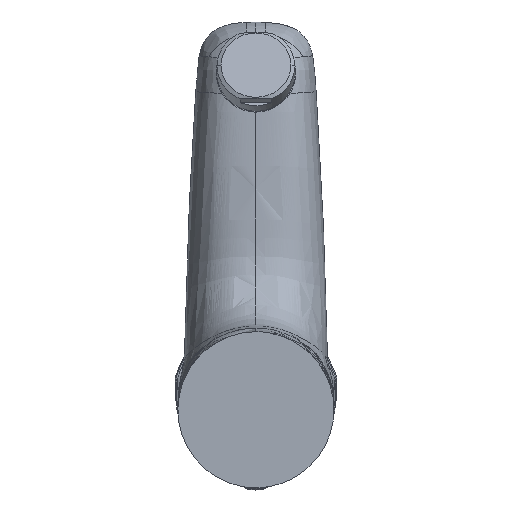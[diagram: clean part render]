
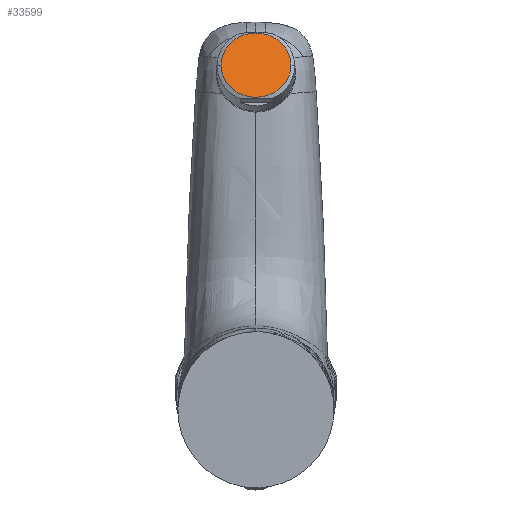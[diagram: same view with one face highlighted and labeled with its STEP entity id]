
A CAD part, front view. The second image highlights one B-rep face of the part: STEP entity #33599.
In plain terms, the highlighted planar face has unit normal (0, -0.92, 0.391).
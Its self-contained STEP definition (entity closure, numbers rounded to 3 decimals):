
#786 = DIRECTION ( 'NONE',  ( 1., 0., 0. ) ) ;
#2707 = PLANE ( 'NONE',  #28750 ) ;
#6608 = VERTEX_POINT ( 'NONE', #31474 ) ;
#6644 = VERTEX_POINT ( 'NONE', #15952 ) ;
#13832 = EDGE_CURVE ( 'NONE', #6608, #6644, #33628, .T. ) ;
#13925 = CARTESIAN_POINT ( 'NONE',  ( -33.48, 383.244, 479.954 ) ) ;
#15411 = CIRCLE ( 'NONE', #16984, 10.8 ) ;
#15845 = DIRECTION ( 'NONE',  ( -1., 0., 0. ) ) ;
#15952 = CARTESIAN_POINT ( 'NONE',  ( -44.28, 383.244, 479.954 ) ) ;
#16984 = AXIS2_PLACEMENT_3D ( 'NONE', #26512, #21208, #29165 ) ;
#18376 = EDGE_LOOP ( 'NONE', ( #34264, #28618 ) ) ;
#18632 = CARTESIAN_POINT ( 'NONE',  ( -33.48, 379.024, 470.013 ) ) ;
#21208 = DIRECTION ( 'NONE',  ( 0., 0.921, -0.391 ) ) ;
#26512 = CARTESIAN_POINT ( 'NONE',  ( -33.48, 383.244, 479.954 ) ) ;
#27876 = FACE_OUTER_BOUND ( 'NONE', #18376, .T. ) ;
#28351 = AXIS2_PLACEMENT_3D ( 'NONE', #13925, #32902, #786 ) ;
#28618 = ORIENTED_EDGE ( 'NONE', *, *, #33561, .F. ) ;
#28750 = AXIS2_PLACEMENT_3D ( 'NONE', #18632, #34253, #15845 ) ;
#29165 = DIRECTION ( 'NONE',  ( 1., 0., 0. ) ) ;
#31474 = CARTESIAN_POINT ( 'NONE',  ( -22.68, 383.244, 479.954 ) ) ;
#32902 = DIRECTION ( 'NONE',  ( 0., 0.921, -0.391 ) ) ;
#33561 = EDGE_CURVE ( 'NONE', #6644, #6608, #15411, .T. ) ;
#33599 = ADVANCED_FACE ( 'NONE', ( #27876 ), #2707, .T. ) ;
#33628 = CIRCLE ( 'NONE', #28351, 10.8 ) ;
#34253 = DIRECTION ( 'NONE',  ( 0., -0.921, 0.391 ) ) ;
#34264 = ORIENTED_EDGE ( 'NONE', *, *, #13832, .F. ) ;
